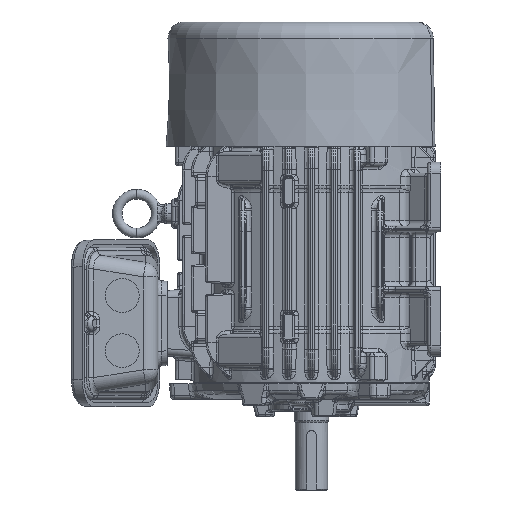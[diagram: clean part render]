
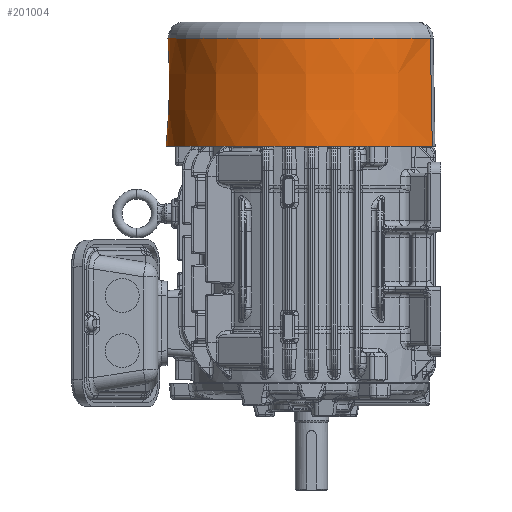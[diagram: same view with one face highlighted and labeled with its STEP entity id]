
A CAD part, left-side view. The second image highlights one B-rep face of the part: STEP entity #201004.
In plain terms, the highlighted conical face has half-angle 1 degrees and reference radius 125.281 mm.
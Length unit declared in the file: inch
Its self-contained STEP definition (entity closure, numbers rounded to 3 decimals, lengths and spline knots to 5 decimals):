
#197062=CARTESIAN_POINT('',(0.,0.,-3.70018));
#197063=DIRECTION('',(0.,0.,1.));
#197064=DIRECTION('',(0.56,-0.828,0.));
#197065=AXIS2_PLACEMENT_3D('',#197062,#197063,#197064);
#197077=CARTESIAN_POINT('',(-2.76191,-4.12542,
0.));
#197089=CARTESIAN_POINT('',(2.76191,-4.12542,0.));
#197120=CARTESIAN_POINT('',(-2.7443,-4.05943,
-3.70018));
#197121=CARTESIAN_POINT('',(-2.74576,-4.06491,
-3.39318));
#197122=CARTESIAN_POINT('',(-2.74867,-4.07577,
-2.78417));
#197123=CARTESIAN_POINT('',(-2.75284,-4.09138,
-1.90924));
#197124=CARTESIAN_POINT('',(-2.75715,-4.10756,
-1.00187));
#197125=CARTESIAN_POINT('',(-2.76029,-4.11934,
-0.34134));
#197126=CARTESIAN_POINT('',(-2.76191,-4.12542,
0.));
#197128=CARTESIAN_POINT('',(2.76191,-4.12542,0.));
#197129=CARTESIAN_POINT('',(2.76058,-4.12044,
-0.27978));
#197130=CARTESIAN_POINT('',(2.75787,-4.11024,
-0.85143));
#197131=CARTESIAN_POINT('',(2.75366,-4.09446,
-1.73641));
#197132=CARTESIAN_POINT('',(2.74919,-4.07772,
-2.67514));
#197133=CARTESIAN_POINT('',(2.74596,-4.06566,
-3.35095));
#197134=CARTESIAN_POINT('',(2.7443,-4.05943,
-3.70018));
#197136=CARTESIAN_POINT('',(0.,0.,0.));
#197137=DIRECTION('',(0.,0.,1.));
#197138=DIRECTION('',(0.556,-0.831,0.));
#197139=AXIS2_PLACEMENT_3D('',#197136,#197137,#197138);
#200122=VERTEX_POINT('',#197077);
#200125=VERTEX_POINT('',#197120);
#200129=VERTEX_POINT('',#197089);
#200130=VERTEX_POINT('',#197134);
#200993=CARTESIAN_POINT('',(0.,0.,-1.85009));
#200994=DIRECTION('',(0.,0.,1.));
#200995=DIRECTION('',(0.,1.,0.));
#200996=AXIS2_PLACEMENT_3D('',#200993,#200994,#200995);
#200997=CONICAL_SURFACE('',#200996,4.93231,1.);
#200998=ORIENTED_EDGE('',*,*,#200976,.F.);
#200999=ORIENTED_EDGE('',*,*,#200863,.F.);
#201000=ORIENTED_EDGE('',*,*,#200916,.F.);
#201001=ORIENTED_EDGE('',*,*,#200931,.T.);
#201002=EDGE_LOOP('',(#200998,#200999,#201000,#201001));
#201003=FACE_OUTER_BOUND('',#201002,.F.);
#201004=ADVANCED_FACE('',(#201003),#200997,.T.);
#197066=CIRCLE('',#197065,4.90001);
#197127=B_SPLINE_CURVE_WITH_KNOTS('',3,(#197120,#197121,#197122,#197123,#197124,
#197125,#197126),.UNSPECIFIED.,.F.,.F.,(4,1,1,1,4),(0.,0.25,0.5,0.75,
1.),.UNSPECIFIED.);
#197135=B_SPLINE_CURVE_WITH_KNOTS('',3,(#197128,#197129,#197130,#197131,#197132,
#197133,#197134),.UNSPECIFIED.,.F.,.F.,(4,1,1,1,4),(0.,0.25,0.5,0.75,
1.),.UNSPECIFIED.);
#197140=CIRCLE('',#197139,4.9646);
#200863=EDGE_CURVE('',#200130,#200125,#197066,.T.);
#200916=EDGE_CURVE('',#200129,#200130,#197135,.T.);
#200931=EDGE_CURVE('',#200129,#200122,#197140,.T.);
#200976=EDGE_CURVE('',#200125,#200122,#197127,.T.);
